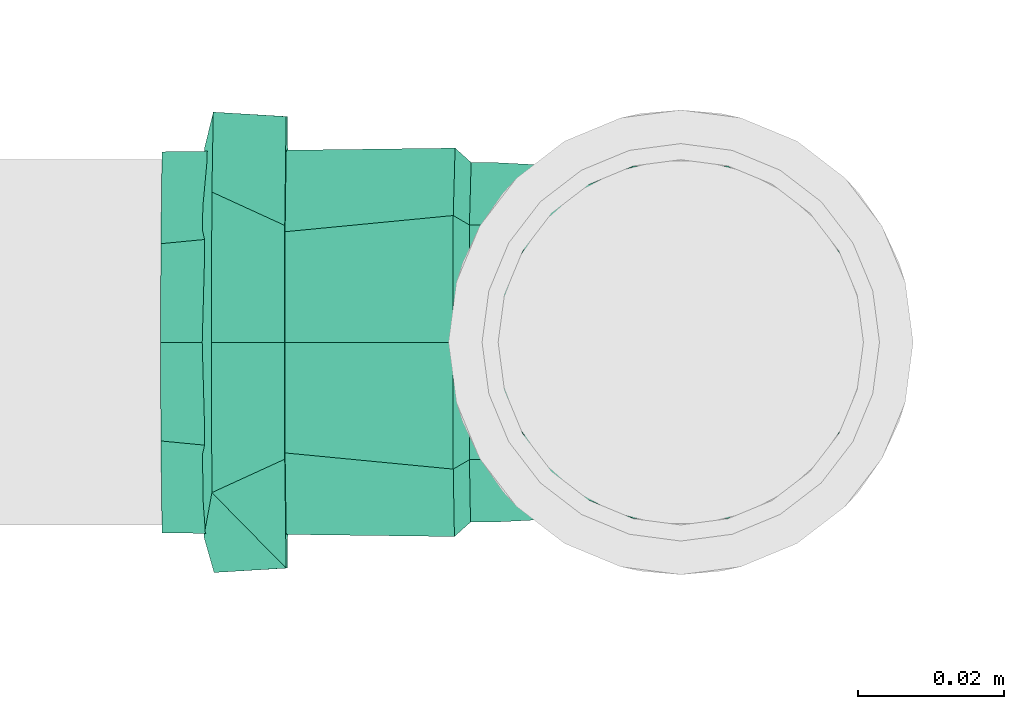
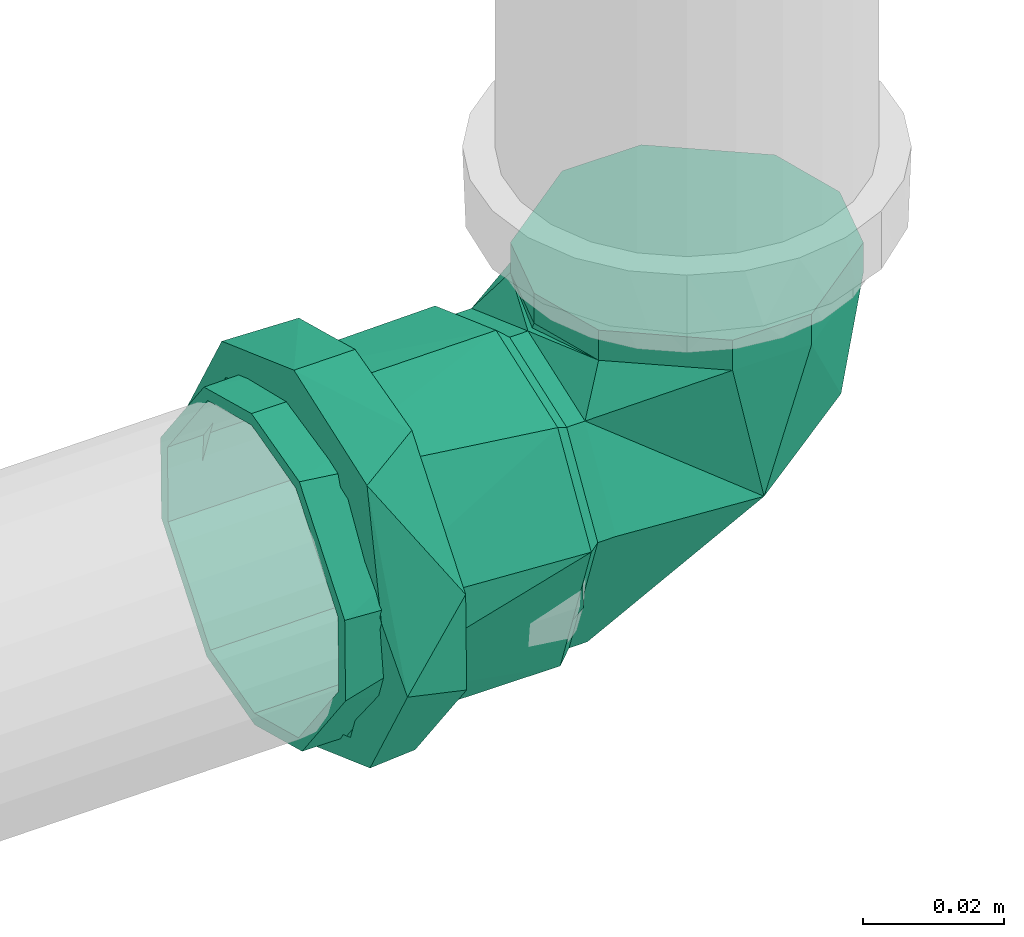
# One storey, part 90 of 589: 1 flow fitting.
"""IFC2X3 building model written with IfcOpenShell, lengths in millimetres."""

from ifc_helpers import new_model, entity, si_unit, converted_unit, derived_unit, direction, frame, origin, place, context, subcontext, project, spatial, faceted_brep, source, transform, mapped, material, type_object, type_shapes, element, save


model = new_model("IFC2X3")

# Units and contexts
model_context = context("Model", 3, precision=0.01, world=origin(), true_north=direction((6.123031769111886e-17, 1.0)))
body_context = subcontext(model_context, "Body", "Model", "MODEL_VIEW")
ifc_project = project(units=[si_unit("LENGTHUNIT", "METRE", prefix="MILLI"), si_unit("AREAUNIT", "SQUARE_METRE"), si_unit("VOLUMEUNIT", "CUBIC_METRE"), converted_unit("PLANEANGLEUNIT", "DEGREE", entity("IfcRatioMeasure", 0.017453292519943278), si_unit("PLANEANGLEUNIT", "RADIAN"), dimensions=[0, 0, 0, 0, 0, 0, 0]), si_unit("MASSUNIT", "GRAM", prefix="KILO"), derived_unit("MASSDENSITYUNIT", [(si_unit("MASSUNIT", "GRAM", prefix="KILO"), 1), (si_unit("LENGTHUNIT", "METRE"), -3)]), derived_unit("IONCONCENTRATIONUNIT", [(si_unit("MASSUNIT", "GRAM", prefix="KILO"), 1), (si_unit("LENGTHUNIT", "METRE"), -3)]), derived_unit("MOMENTOFINERTIAUNIT", [(si_unit("LENGTHUNIT", "METRE"), 4)]), si_unit("TIMEUNIT", "SECOND"), si_unit("FREQUENCYUNIT", "HERTZ"), si_unit("THERMODYNAMICTEMPERATUREUNIT", "DEGREE_CELSIUS"), derived_unit("THERMALTRANSMITTANCEUNIT", [(si_unit("MASSUNIT", "GRAM", prefix="KILO"), 1), (si_unit("THERMODYNAMICTEMPERATUREUNIT", "KELVIN"), -1), (si_unit("TIMEUNIT", "SECOND"), -3)]), derived_unit("THERMALCONDUCTANCEUNIT", [(si_unit("MASSUNIT", "GRAM", prefix="KILO"), 1), (si_unit("THERMODYNAMICTEMPERATUREUNIT", "KELVIN"), -1), (si_unit("TIMEUNIT", "SECOND"), -3), (si_unit("LENGTHUNIT", "METRE"), 1)]), derived_unit("VOLUMETRICFLOWRATEUNIT", [(si_unit("LENGTHUNIT", "METRE"), 3), (si_unit("TIMEUNIT", "SECOND"), -1)]), derived_unit("MASSFLOWRATEUNIT", [(si_unit("MASSUNIT", "GRAM", prefix="KILO"), 1), (si_unit("TIMEUNIT", "SECOND"), -1)]), derived_unit("ROTATIONALFREQUENCYUNIT", [(si_unit("TIMEUNIT", "SECOND"), -1)]), si_unit("ELECTRICCURRENTUNIT", "AMPERE"), si_unit("ELECTRICVOLTAGEUNIT", "VOLT"), si_unit("POWERUNIT", "WATT"), si_unit("FORCEUNIT", "NEWTON", prefix="KILO"), si_unit("ILLUMINANCEUNIT", "LUX"), si_unit("LUMINOUSFLUXUNIT", "LUMEN"), si_unit("LUMINOUSINTENSITYUNIT", "CANDELA"), derived_unit("USERDEFINED", [(si_unit("MASSUNIT", "GRAM", prefix="KILO"), -1), (si_unit("LENGTHUNIT", "METRE"), -2), (si_unit("TIMEUNIT", "SECOND"), 3), (si_unit("LUMINOUSFLUXUNIT", "LUMEN"), 1)]), derived_unit("USERDEFINED", [(si_unit("MASSUNIT", "GRAM", prefix="KILO"), 1), (si_unit("TIMEUNIT", "SECOND"), -3), (si_unit("LENGTHUNIT", "METRE"), 3), (si_unit("ELECTRICCURRENTUNIT", "AMPERE"), -2)]), derived_unit("SOUNDPOWERUNIT", [(si_unit("MASSUNIT", "GRAM", prefix="KILO"), 1), (si_unit("TIMEUNIT", "SECOND"), -3), (si_unit("LENGTHUNIT", "METRE"), 2)]), derived_unit("SOUNDPRESSUREUNIT", [(si_unit("MASSUNIT", "GRAM", prefix="KILO"), 1), (si_unit("LENGTHUNIT", "METRE"), -1), (si_unit("TIMEUNIT", "SECOND"), -2)]), derived_unit("LINEARVELOCITYUNIT", [(si_unit("LENGTHUNIT", "METRE"), 1), (si_unit("TIMEUNIT", "SECOND"), -1)]), si_unit("PRESSUREUNIT", "PASCAL"), derived_unit("USERDEFINED", [(si_unit("MASSUNIT", "GRAM", prefix="KILO"), 1), (si_unit("LENGTHUNIT", "METRE"), -2), (si_unit("TIMEUNIT", "SECOND"), -2)]), derived_unit("LINEARFORCEUNIT", [(si_unit("MASSUNIT", "GRAM", prefix="KILO"), 1), (si_unit("TIMEUNIT", "SECOND"), -2)]), derived_unit("PLANARFORCEUNIT", [(si_unit("MASSUNIT", "GRAM", prefix="KILO"), 1), (si_unit("LENGTHUNIT", "METRE"), -1), (si_unit("TIMEUNIT", "SECOND"), -2)]), derived_unit("SPECIFICHEATCAPACITYUNIT", [(si_unit("THERMODYNAMICTEMPERATUREUNIT", "KELVIN"), -1), (si_unit("LENGTHUNIT", "METRE"), 2), (si_unit("TIMEUNIT", "SECOND"), -2)]), derived_unit("HEATINGVALUEUNIT", [(si_unit("LENGTHUNIT", "METRE"), 2), (si_unit("TIMEUNIT", "SECOND"), -2)]), derived_unit("VAPORPERMEABILITYUNIT", [(si_unit("LENGTHUNIT", "METRE"), -1), (si_unit("TIMEUNIT", "SECOND"), 1)]), derived_unit("DYNAMICVISCOSITYUNIT", [(si_unit("MASSUNIT", "GRAM", prefix="KILO"), 1), (si_unit("TIMEUNIT", "SECOND"), -1), (si_unit("LENGTHUNIT", "METRE"), -1)]), derived_unit("THERMALEXPANSIONCOEFFICIENTUNIT", [(si_unit("THERMODYNAMICTEMPERATUREUNIT", "KELVIN"), -1)]), derived_unit("MODULUSOFELASTICITYUNIT", [(si_unit("MASSUNIT", "GRAM", prefix="KILO"), 1), (si_unit("LENGTHUNIT", "METRE"), -1), (si_unit("TIMEUNIT", "SECOND"), -2)]), derived_unit("ISOTHERMALMOISTURECAPACITYUNIT", [(si_unit("LENGTHUNIT", "METRE"), 3), (si_unit("MASSUNIT", "GRAM", prefix="KILO"), -1)]), derived_unit("MOISTUREDIFFUSIVITYUNIT", [(si_unit("TIMEUNIT", "SECOND"), -1), (si_unit("LENGTHUNIT", "METRE"), 2)])], contexts=[model_context])

# Site, building, storey
site_placement = place(None, origin())
site = spatial("IfcSite", under=ifc_project, at=site_placement, Name="Default", CompositionType="ELEMENT")
building_placement = place(site_placement, origin())
building = spatial("IfcBuilding", under=site, at=building_placement, CompositionType="ELEMENT")
storey_placement = place(building_placement, frame((0.0, 0.0, 100.0)))
storey = spatial("IfcBuildingStorey", under=building, at=storey_placement, Name="TÉRREO", CompositionType="ELEMENT", Elevation=100.0)

# Flow fitting
ifc_material = material(Name="PVC Série Normal")
pipe_fitting_type = type_object("IfcPipeFittingType", Name="PVC Esgoto_Joelho 45_90_Rodrigo MEP:a. Série Normal", PredefinedType="NOTDEFINED", material=ifc_material)
shared_shape = source(origin(), body_context, "Body", "Brep", [
    faceted_brep([(-6.212752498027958, 25.804714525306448, 24.14814565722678), (-21.392152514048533, 25.95650852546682, 12.500000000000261), (-24.741349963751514, 25.990000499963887, 0.0), (-21.392152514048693, 25.956508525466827, -12.499999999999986), (-6.21275249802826, 25.804714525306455, -24.1481456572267), (6.727552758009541, 25.675311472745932, -24.14814565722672), (21.906952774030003, 25.52351747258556, -12.500000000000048), (25.256150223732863, 25.490025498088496, 0.0), (21.906952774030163, 25.52351747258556, 12.499999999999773), (6.7275527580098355, 25.675311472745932, 24.148145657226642), (25.308147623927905, 30.689765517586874, 0.0), (21.958950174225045, 30.72325749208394, -12.500000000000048), (6.779550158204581, 30.87505149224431, -24.14814565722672), (-6.160755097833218, 31.004454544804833, -24.1481456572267), (-21.34015511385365, 31.156248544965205, -12.499999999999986), (-24.689352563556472, 31.18974051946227, 0.0), (-21.340155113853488, 31.1562485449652, 12.500000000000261), (-6.160755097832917, 31.00445454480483, 24.14814565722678), (6.779550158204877, 30.87505149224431, 24.148145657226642), (21.958950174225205, 30.72325749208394, 12.499999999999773)], [[[0, 1, 2, 3, 4, 5, 6, 7, 8, 9]], [[10, 11, 12, 13, 14, 15, 16, 17, 18, 19]], [[7, 10, 19, 8]], [[8, 19, 18, 9]], [[18, 17, 0, 9]], [[0, 17, 16, 1]], [[1, 16, 15, 2]], [[2, 15, 14, 3]], [[3, 14, 13, 4]], [[13, 12, 5, 4]], [[5, 12, 11, 6]], [[6, 11, 10, 7]]]),
    faceted_brep([(-70.94129996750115, -6.988114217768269, -26.07999730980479), (-70.94129996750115, -6.47047612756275, -24.14814565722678), (-70.94129996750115, 6.4704761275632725, -24.148145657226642), (-70.94129996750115, -23.382685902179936, -13.499999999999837), (-70.94129996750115, 6.988114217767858, -26.0799973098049), (-70.94129996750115, -21.650635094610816, -12.500000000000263), (-70.94129996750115, -25.0, 0.0), (-70.94129996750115, -27.0, 0.0), (-70.94129996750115, -21.650635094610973, 12.499999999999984), (-70.94129996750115, -23.382685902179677, 13.500000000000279), (-70.94129996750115, -6.470476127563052, 24.1481456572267), (-70.94129996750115, -6.98811421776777, 26.079997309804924), (-70.94129996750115, 6.470476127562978, 24.14814565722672), (-70.94129996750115, 6.988114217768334, 26.07999730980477), (-70.94129996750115, 21.650635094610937, 12.500000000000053), (-70.94129996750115, 23.38268590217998, 13.499999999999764), (-70.94129996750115, 27.0, 0.0), (-70.94129996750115, 25.0, 0.0), (-70.94129996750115, 23.382685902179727, -13.500000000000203), (-70.94129996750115, 21.6506350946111, -12.499999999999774), (-30.94129996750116, 21.650635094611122, -12.499999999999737), (-30.94129996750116, 25.0, 0.0), (-30.94129996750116, 6.4704761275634, -24.148145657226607), (-30.94129996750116, -6.470476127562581, -24.148145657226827), (-30.94129996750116, -21.650635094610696, -12.500000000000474), (-30.94129996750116, -25.0, 0.0), (-30.94129996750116, -21.65063509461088, 12.500000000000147), (-30.94129996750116, -6.470476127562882, 24.14814565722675), (-30.94129996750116, 6.470476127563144, 24.148145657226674), (-30.94129996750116, 21.650635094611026, 12.499999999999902), (-30.94129996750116, 27.0, 0.0), (-30.941299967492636, 20.682232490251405, 17.356418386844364), (-30.94129996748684, 4.685536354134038, 26.59033187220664), (-30.94129996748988, -20.686585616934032, 17.35122979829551), (-30.94129996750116, -27.0, 0.0), (-30.941299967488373, -8.000524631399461, 21.970780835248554), (-30.94129996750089, -20.686585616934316, -17.35122979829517), (-30.9412999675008, -4.6922062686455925, -26.589155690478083), (-30.94129996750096, 20.682232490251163, -17.356418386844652), (-30.94129996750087, 7.995013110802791, -21.97278703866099), (-28.74129996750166, -4.338459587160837, -24.62067765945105), (-28.741299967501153, 25.0, 0.0), (-28.741299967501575, 19.154245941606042, -16.065953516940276), (-28.741299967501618, 7.407893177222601, -20.34331558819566), (-28.741299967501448, -19.15021526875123, -16.070757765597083), (-28.741299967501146, -25.0, 0.0), (-28.741299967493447, -19.150215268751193, 16.07075776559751), (-28.741299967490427, -7.402789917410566, 20.345173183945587), (-28.74129996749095, 19.15424594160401, 16.065953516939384), (-28.741299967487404, 4.344635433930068, 24.619588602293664), (-25.741299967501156, 25.0, 0.0), (-25.741299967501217, 19.151286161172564, 16.069481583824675), (-25.741299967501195, 4.341396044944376, 24.62016003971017), (-25.741299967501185, -7.404832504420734, 20.344954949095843), (-25.741299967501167, -19.15106105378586, 16.069749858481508), (-25.741299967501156, -25.0, 0.0), (-25.741299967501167, -19.15106105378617, -16.069749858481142), (-25.741299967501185, -4.341051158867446, -24.62022085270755), (-25.741299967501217, 19.15128616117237, -16.069481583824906), (-25.7412999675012, 7.405117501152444, -20.344851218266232), (-6.212752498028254, 25.80471452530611, -24.1481456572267), (-21.39215251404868, 25.95650852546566, -12.499999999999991), (-24.74134996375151, 25.990000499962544, 0.0), (-21.3921525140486, 25.956508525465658, 12.500000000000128), (-6.2127524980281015, 25.80471452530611, 24.14814565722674), (6.7275527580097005, 25.67531147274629, 24.148145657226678), (21.906952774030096, 25.52351747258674, 12.499999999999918), (25.256150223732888, 25.490025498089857, 0.0), (21.90695277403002, 25.523517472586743, -12.500000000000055), (6.727552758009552, 25.67531147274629, -24.14814565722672), (-0.83580225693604, 1.5246716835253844, 23.354962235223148), (-3.2027279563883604, -15.730161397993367, 0.0), (10.140389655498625, -10.242300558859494, 0.0), (16.135012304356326, 8.632944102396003, 15.848254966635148), (-25.03773742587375, 25.289366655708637, 0.0), (15.761400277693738, 3.0452732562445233, 0.0), (16.135011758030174, 8.632944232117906, -15.848255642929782), (-0.8751695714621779, 1.433288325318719, -23.341145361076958)], [[[0, 1, 2]], [[1, 0, 3]], [[2, 4, 0]], [[3, 5, 1]], [[3, 6, 5]], [[6, 3, 7]], [[8, 6, 7]], [[8, 7, 9]], [[9, 10, 8]], [[9, 11, 10]], [[10, 11, 12]], [[13, 12, 11]], [[13, 14, 12]], [[14, 13, 15]], [[16, 14, 15]], [[17, 14, 16]], [[18, 17, 16]], [[18, 19, 17]], [[19, 18, 4]], [[4, 2, 19]], [[20, 21, 17, 19]], [[22, 20, 19, 2]], [[2, 1, 23, 22]], [[24, 23, 1, 5]], [[25, 24, 5, 6]], [[26, 25, 6, 8]], [[27, 26, 8, 10]], [[10, 12, 28, 27]], [[29, 28, 12, 14]], [[21, 29, 14, 17]], [[16, 15, 30]], [[15, 31, 30]], [[31, 15, 13]], [[31, 13, 32]], [[33, 11, 9]], [[34, 9, 7]], [[11, 33, 35, 32]], [[33, 9, 34]], [[11, 32, 13]], [[7, 3, 34]], [[3, 36, 34]], [[36, 3, 0]], [[36, 0, 37]], [[38, 4, 18]], [[30, 18, 16]], [[4, 38, 39, 37]], [[38, 18, 30]], [[4, 37, 0]], [[28, 29, 21, 20, 22, 23, 24, 25, 26, 27]], [[39, 40, 37]], [[41, 42, 30]], [[30, 42, 38]], [[38, 43, 39]], [[44, 45, 36]], [[38, 42, 43]], [[36, 37, 44]], [[34, 36, 45]], [[40, 39, 43]], [[44, 37, 40]], [[45, 46, 33]], [[33, 34, 45]], [[46, 35, 33]], [[46, 47, 35]], [[47, 32, 35]], [[48, 41, 30]], [[48, 31, 49]], [[31, 48, 30]], [[32, 47, 49]], [[49, 31, 32]], [[41, 48, 50]], [[48, 51, 50]], [[51, 48, 49]], [[51, 49, 52]], [[52, 47, 53]], [[46, 54, 53]], [[46, 45, 54]], [[49, 47, 52]], [[54, 45, 55]], [[47, 46, 53]], [[45, 44, 56]], [[45, 56, 55]], [[56, 44, 57]], [[58, 59, 43]], [[44, 40, 57]], [[40, 59, 57]], [[58, 43, 42]], [[42, 50, 58]], [[50, 42, 41]], [[59, 40, 43]], [[60, 61, 62, 63, 64, 65, 66, 67, 68, 69]], [[52, 70, 51]], [[54, 71, 70]], [[70, 52, 53, 54]], [[72, 73, 70]], [[50, 63, 74]], [[51, 63, 50]], [[54, 55, 71]], [[72, 70, 71]], [[75, 67, 66]], [[65, 70, 73]], [[73, 75, 66]], [[74, 63, 62]], [[73, 66, 65]], [[63, 51, 64]], [[70, 64, 51]], [[73, 72, 75]], [[65, 64, 70]], [[72, 76, 75]], [[71, 55, 56]], [[77, 58, 60]], [[77, 57, 59, 58]], [[77, 71, 56]], [[56, 57, 77]], [[77, 69, 76]], [[58, 50, 61]], [[74, 62, 61]], [[71, 77, 72]], [[61, 60, 58]], [[68, 75, 76]], [[68, 67, 75]], [[72, 77, 76]], [[76, 69, 68]], [[60, 69, 77]], [[61, 50, 74]]]),
    faceted_brep([(-53.94129996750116, 6.9881142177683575, -26.07999730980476), (-53.94129996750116, -6.988114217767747, -26.079997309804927), (-53.94129996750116, -8.282209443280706, -30.909626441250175), (-53.94129996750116, 8.28220944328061, -30.9096264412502), (-53.94129996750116, 23.38268590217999, -13.499999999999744), (-53.94129996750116, -27.712812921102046, -16.0), (-53.94129996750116, -23.38268590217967, -13.500000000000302), (-53.94129996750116, -27.0, 0.0), (-53.94129996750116, -32.0, 0.0), (-53.94129996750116, -23.382685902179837, 13.500000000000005), (-53.94129996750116, -27.712812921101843, 16.0), (-53.94129996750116, -6.988114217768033, 26.07999730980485), (-53.94129996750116, -8.28220944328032, 30.909626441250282), (-53.94129996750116, 6.988114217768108, 26.07999730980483), (-53.94129996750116, 8.282209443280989, 30.909626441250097), (-53.94129996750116, 23.382685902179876, 13.499999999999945), (-53.94129996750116, 27.712812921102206, 16.0), (-53.94129996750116, 32.0, 0.0), (-53.94129996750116, 27.0, 0.0), (-53.94129996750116, 27.712812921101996, -16.0), (-63.94129996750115, 27.0, 0.0), (-65.24129996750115, 27.0, 0.0), (-63.94129996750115, 25.191342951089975, -6.750000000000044), (-63.94129996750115, 23.38268590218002, -13.499999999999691), (-63.94129996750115, 19.284042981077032, -16.644999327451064), (-63.94129996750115, 15.185400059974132, -19.789998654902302), (-63.94129996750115, 11.086757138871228, -22.934997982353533), (-63.94129996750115, 6.988114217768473, -26.07999730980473), (-63.94129996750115, 0.0, -26.079997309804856), (-63.94129996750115, -6.988114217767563, -26.079997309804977), (-63.94129996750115, -11.086757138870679, -22.934997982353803), (-63.94129996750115, -15.185400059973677, -19.789998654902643), (-63.94129996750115, -19.284042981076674, -16.644999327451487), (-63.94129996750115, -23.382685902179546, -13.50000000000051), (-63.94129996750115, -25.191342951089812, -6.750000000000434), (-65.24129996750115, -27.0, 0.0), (-63.94129996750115, -27.0, 0.0), (-63.94129996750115, -25.19134295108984, 6.750000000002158), (-63.94129996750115, -23.382685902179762, 13.500000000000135), (-63.94129996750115, -19.284042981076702, 16.64499932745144), (-63.94129996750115, -15.185400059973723, 19.7899986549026), (-63.94129996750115, -11.086757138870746, 22.934997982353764), (-63.94129996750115, -6.988114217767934, 26.079997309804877), (-63.94129996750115, 0.0, 26.079997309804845), (-63.94129996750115, 6.988114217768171, 26.079997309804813), (-63.94129996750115, 11.086757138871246, 22.93499798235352), (-63.94129996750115, 15.185400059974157, 19.789998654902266), (-63.94129996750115, 19.284042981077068, 16.644999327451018), (-63.94129996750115, 23.382685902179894, 13.499999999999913), (-63.94129996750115, 25.19134295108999, 6.74999999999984), (-63.94129996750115, 32.0, 0.0), (-63.94129996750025, 24.512275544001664, 20.570569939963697), (-63.94129996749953, -5.561133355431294, 31.51307341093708), (-63.94129996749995, -24.51743480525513, 20.56442050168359), (-63.94129996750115, -32.0, 0.0), (-63.9412999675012, -24.51743480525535, -20.564420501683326), (-63.941299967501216, 5.553228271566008, -31.514467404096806), (-63.94129996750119, 24.512275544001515, -20.570569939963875), (-65.2412999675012, -23.84329280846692, -8.675614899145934), (-65.24129996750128, -20.686585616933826, -17.351229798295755), (-65.24129996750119, 23.841116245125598, -8.678209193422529), (-65.24129996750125, 20.6822324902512, -17.356418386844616), (-65.24129996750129, -12.689395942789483, -21.970192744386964), (-65.24129996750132, -4.692206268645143, -26.589155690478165), (-65.24129996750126, 14.338622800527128, -19.664602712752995), (-65.24129996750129, 1.6514034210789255, -24.280971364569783), (-65.24129996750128, 7.995013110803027, -21.97278703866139), (-65.24129996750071, 23.84111624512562, 8.678209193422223), (-65.24129996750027, 20.68223249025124, 17.35641838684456), (-65.24129996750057, -23.843292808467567, 8.675614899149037), (-65.24129996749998, -20.68658561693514, 17.351229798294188), (-65.24129996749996, 12.683884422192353, 21.973375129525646), (-65.24129996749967, 4.685536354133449, 26.590331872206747), (-65.2412999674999, -14.343555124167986, 19.66100531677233), (-65.24129996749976, -1.6574941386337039, 24.280556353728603), (-65.24129996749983, -8.000524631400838, 21.97078083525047)], [[[0, 1, 2]], [[2, 3, 0]], [[4, 0, 3]], [[5, 2, 1]], [[1, 6, 5]], [[6, 7, 5]], [[8, 5, 7]], [[8, 7, 9]], [[10, 8, 9]], [[9, 11, 10]], [[11, 12, 10]], [[13, 12, 11]], [[12, 13, 14]], [[13, 15, 14]], [[16, 14, 15]], [[16, 15, 17]], [[17, 15, 18]], [[18, 4, 19]], [[17, 18, 19]], [[3, 19, 4]], [[4, 18, 20, 21, 22, 23]], [[0, 4, 23, 24, 25, 26, 27]], [[0, 27, 28, 29, 1]], [[6, 1, 29, 30, 31, 32, 33]], [[7, 6, 33, 34, 35, 36]], [[9, 7, 36, 35, 37, 38]], [[11, 9, 38, 39, 40, 41, 42]], [[11, 42, 43, 44, 13]], [[15, 13, 44, 45, 46, 47, 48]], [[18, 15, 48, 49, 21, 20]], [[50, 51, 16]], [[50, 16, 17]], [[16, 51, 14]], [[51, 52, 14]], [[12, 52, 53]], [[10, 53, 54]], [[53, 10, 12]], [[10, 54, 8]], [[52, 12, 14]], [[54, 55, 5]], [[54, 5, 8]], [[5, 55, 2]], [[55, 56, 2]], [[3, 56, 57]], [[19, 57, 50]], [[57, 19, 3]], [[19, 50, 17]], [[56, 3, 2]], [[58, 33, 59]], [[23, 60, 61]], [[32, 31, 59, 33]], [[30, 29, 62, 31]], [[24, 23, 61, 25]], [[29, 28, 63]], [[26, 25, 64]], [[65, 63, 28]], [[31, 62, 59]], [[63, 62, 29]], [[60, 22, 21]], [[34, 58, 35]], [[66, 26, 64]], [[28, 27, 65]], [[27, 66, 65]], [[27, 26, 66]], [[64, 25, 61]], [[34, 33, 58]], [[60, 23, 22]], [[67, 48, 68]], [[38, 69, 70]], [[47, 46, 68, 48]], [[45, 44, 71, 46]], [[39, 38, 70, 40]], [[44, 43, 72]], [[41, 40, 73]], [[74, 72, 43]], [[46, 71, 68]], [[72, 71, 44]], [[69, 37, 35]], [[49, 67, 21]], [[75, 41, 73]], [[43, 42, 74]], [[42, 75, 74]], [[42, 41, 75]], [[73, 40, 70]], [[49, 48, 67]], [[69, 38, 37]], [[54, 35, 58, 59, 55]], [[55, 59, 62, 63]], [[55, 63, 56]], [[57, 61, 60, 21, 50]], [[57, 56, 61]], [[56, 63, 65, 66, 64, 61]], [[50, 21, 67, 68, 51]], [[51, 68, 71, 72]], [[51, 72, 52]], [[53, 70, 69, 35, 54]], [[53, 52, 70]], [[52, 72, 74, 75, 73, 70]]]),
])
type_shapes(pipe_fitting_type, [shared_shape])
flow_fitting_placement = place(storey_placement, frame((-6855.178534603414, -1275.6092449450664, 2979.676977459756), z_axis=(0.0, -1.0, 0.0), x_axis=(0.9999500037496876, 0.0, 0.009999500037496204)))
element("IfcFlowFitting", 1, at=flow_fitting_placement, inside=storey, type_object=pipe_fitting_type, material=ifc_material, Name="PVC Esgoto_Joelho 45_90_Rodrigo MEP:a. Série Normal", ObjectType="PVC Esgoto_Joelho 45_90_Rodrigo MEP:a. Série Normal", context=body_context, shape_type="MappedRepresentation", body=[
    mapped(shared_shape, transform((0.0, 0.0, 0.0), scale=1.0)),
])

save(model, "model.ifc")
